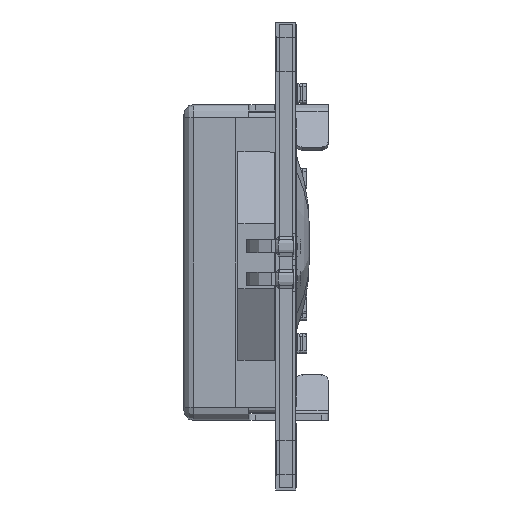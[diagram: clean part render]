
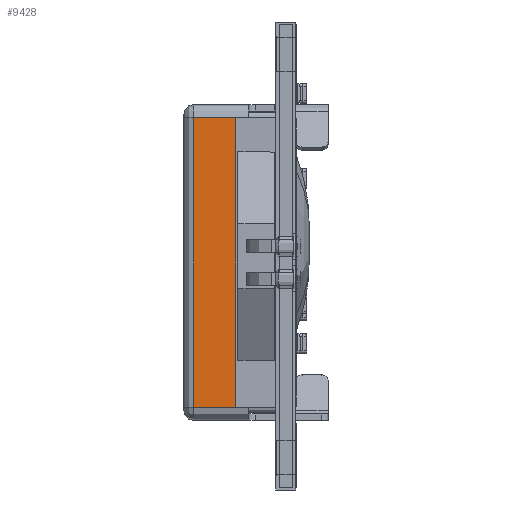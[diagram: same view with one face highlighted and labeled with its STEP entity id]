
A CAD part, left-side view. The second image highlights one B-rep face of the part: STEP entity #9428.
In plain terms, the highlighted planar face has unit normal (-1, 0, 0).
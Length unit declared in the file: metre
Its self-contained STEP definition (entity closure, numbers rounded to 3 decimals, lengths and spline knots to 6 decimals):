
#9428=ADVANCED_FACE('0:64',(#30110),#30111,.T.);
#30110=FACE_OUTER_BOUND('',#54288,.T.);
#30111=PLANE('',#54289);
#54288=EDGE_LOOP('',(#139583,#139584,#139585,#139586));
#54289=AXIS2_PLACEMENT_3D('',#139587,#139588,#139589);
#139583=ORIENTED_EDGE('',*,*,#180720,.F.);
#139584=ORIENTED_EDGE('',*,*,#180721,.T.);
#139585=ORIENTED_EDGE('',*,*,#180722,.T.);
#139586=ORIENTED_EDGE('',*,*,#180723,.T.);
#139587=CARTESIAN_POINT('',(0.00935,-0.008228,0.0669));
#139588=DIRECTION('',(-1.0,0.0,0.0));
#139589=DIRECTION('',(0.0,1.0,0.));
#180720=EDGE_CURVE('0:808',#222364,#222365,#222366,.T.);
#180721=EDGE_CURVE('0:811',#222364,#222367,#222368,.T.);
#180722=EDGE_CURVE('0:814',#222367,#222369,#222370,.T.);
#180723=EDGE_CURVE('0:817',#222369,#222365,#222371,.T.);
#222364=VERTEX_POINT('NONE',#310792);
#222365=VERTEX_POINT('NONE',#310793);
#222366=LINE('',#310794,#310795);
#222367=VERTEX_POINT('NONE',#310796);
#222368=LINE('',#310797,#310798);
#222369=VERTEX_POINT('NONE',#310799);
#222370=LINE('',#310800,#310801);
#222371=LINE('',#310802,#310803);
#310792=CARTESIAN_POINT('',(0.00935,-0.009228,-0.011428));
#310793=CARTESIAN_POINT('',(0.00935,-0.031528,-0.011428));
#310794=CARTESIAN_POINT('',(0.00935,-0.031528,-0.011428));
#310795=VECTOR('',#347752,1.0);
#310796=CARTESIAN_POINT('',(0.00935,-0.009228,-0.014678));
#310797=CARTESIAN_POINT('',(0.00935,-0.009228,0.0669));
#310798=VECTOR('',#347753,1.0);
#310799=CARTESIAN_POINT('',(0.00935,-0.031528,-0.014678));
#310800=CARTESIAN_POINT('',(0.00935,-0.031528,-0.014678));
#310801=VECTOR('',#347754,1.0);
#310802=CARTESIAN_POINT('',(0.00935,-0.031528,0.0669));
#310803=VECTOR('',#347755,1.0);
#347752=DIRECTION('',(0.0,-1.0,0.));
#347753=DIRECTION('',(0.0,0.,-1.0));
#347754=DIRECTION('',(0.0,-1.0,0.));
#347755=DIRECTION('',(0.0,0.,1.0));
